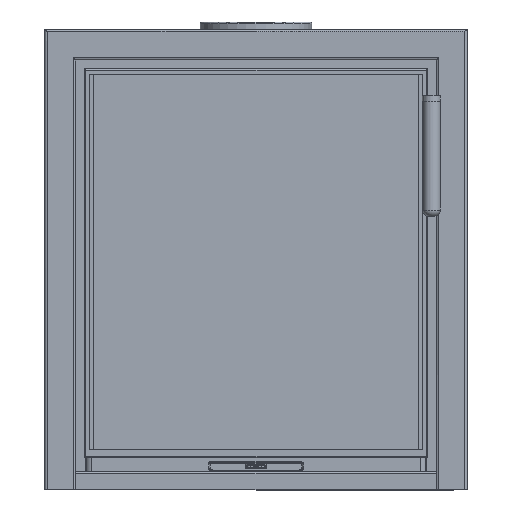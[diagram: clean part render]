
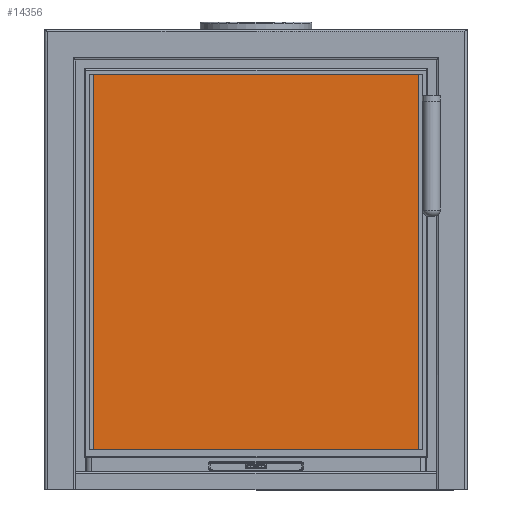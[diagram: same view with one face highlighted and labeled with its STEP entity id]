
A CAD part, front view. The second image highlights one B-rep face of the part: STEP entity #14356.
In plain terms, the highlighted planar face has unit normal (0, -1, 0).
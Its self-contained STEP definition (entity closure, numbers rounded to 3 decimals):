
#3311=ORIENTED_EDGE('',*,*,#6452,.T.);
#3312=ORIENTED_EDGE('',*,*,#6455,.T.);
#3313=ORIENTED_EDGE('',*,*,#6457,.T.);
#3314=ORIENTED_EDGE('',*,*,#6458,.T.);
#6452=EDGE_CURVE('',#8189,#8188,#9624,.T.);
#6455=EDGE_CURVE('',#8188,#8190,#9627,.T.);
#6457=EDGE_CURVE('',#8190,#8191,#9629,.T.);
#6458=EDGE_CURVE('',#8191,#8189,#9630,.T.);
#8188=VERTEX_POINT('',#27172);
#8189=VERTEX_POINT('',#27174);
#8190=VERTEX_POINT('',#27178);
#8191=VERTEX_POINT('',#27182);
#9624=LINE('',#27173,#11037);
#9627=LINE('',#27179,#11040);
#9629=LINE('',#27183,#11042);
#9630=LINE('',#27185,#11043);
#11037=VECTOR('',#18367,1000.);
#11040=VECTOR('',#18372,1000.);
#11042=VECTOR('',#18376,1000.);
#11043=VECTOR('',#18379,1000.);
#12059=EDGE_LOOP('',(#3311,#3312,#3313,#3314));
#13008=FACE_BOUND('',#12059,.T.);
#13801=PLANE('',#16073);
#14356=ADVANCED_FACE('',(#13008),#13801,.T.);
#16073=AXIS2_PLACEMENT_3D('',#27186,#18380,#18381);
#18367=DIRECTION('',(0.,0.,-1.));
#18372=DIRECTION('',(1.,0.,0.));
#18376=DIRECTION('',(0.,0.,1.));
#18379=DIRECTION('',(-1.,0.,0.));
#18380=DIRECTION('',(0.,-1.,0.));
#18381=DIRECTION('',(0.,0.,-1.));
#27172=CARTESIAN_POINT('',(-216.5,-6.,62.5));
#27173=CARTESIAN_POINT('',(-216.5,-6.,550.1));
#27174=CARTESIAN_POINT('',(-216.5,-6.,550.1));
#27178=CARTESIAN_POINT('',(216.5,-6.,62.5));
#27179=CARTESIAN_POINT('',(-216.5,-6.,62.5));
#27182=CARTESIAN_POINT('',(216.5,-6.,550.1));
#27183=CARTESIAN_POINT('',(216.5,-6.,62.5));
#27185=CARTESIAN_POINT('',(216.5,-6.,550.1));
#27186=CARTESIAN_POINT('',(0.,-6.,0.));
